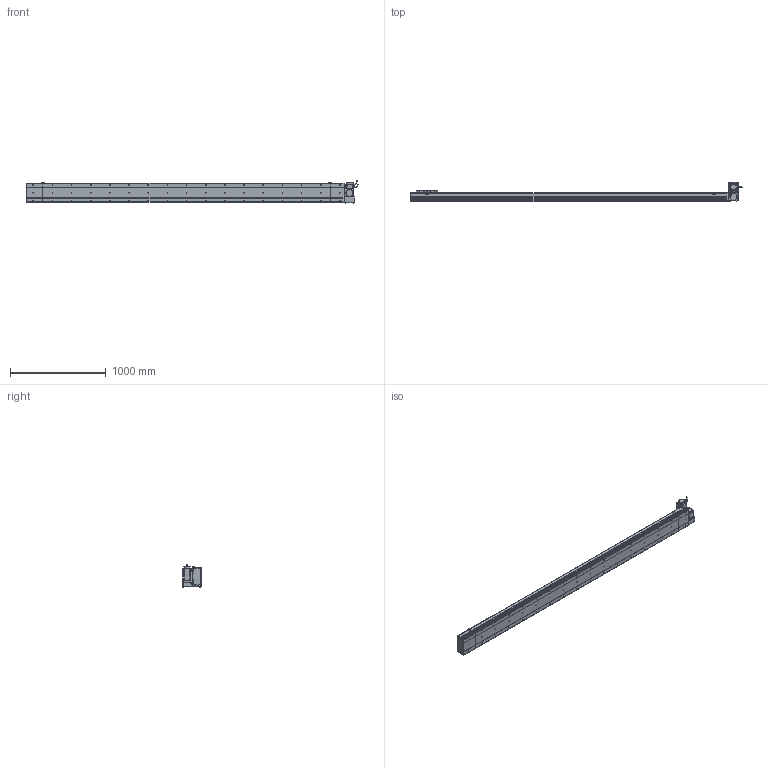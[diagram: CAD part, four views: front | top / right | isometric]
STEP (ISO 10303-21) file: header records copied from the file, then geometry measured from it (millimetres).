
FILE_DESCRIPTION (( 'STEP AP214' ), '1' );
FILE_NAME ('D20 CBH RT S3000.STEP', '2010-06-30T10:37:39', ( 'Conseil Régional Haute-Normandie' ), ( 'Conseil Régional Haute-Normandie' ), 'SwSTEP 2.0', 'SolidWorks 2010', '' );
FILE_SCHEMA (( 'AUTOMOTIVE_DESIGN' ));
Length unit declared in the file: millimetre
Products named in the file (31): Support Chariot D20_Default; Chariot D20_Default; Corp Tail D20_Default; D20 CBH RT S3000; vis M5 L15_Default; Couvercle RT_Default; Corp Tail D20 RT_Default; Head RT_Default; Support moteur RT_Default; Plaque De Serrage D20 RT_Default; Plaque de Bout Head D20 RT_Default; corps 90BLDC125A-640; avant 90BLDC125A-640; Moteur motionking 90BLDC125A-640; Conecteur_Default; Plaque De Serrage D20_Default; Conecteur2_Default; codeur 90BLDC125-640; Cache Support Moteur RT_Default; ecrou_Default; vis M5 L30_Default; Corp D20 S3000_Default; Rondelle Cache D20 RT_Default; vis M5 L47_Default; Couvercle S3000_Default; Corp S3000_Default; Glissiere_Default; Couvercle_Default; Plaque de Bout Tail D20_Default; Tail D20_Default
Assembly tree (68 placements, depth 4):
  D20 CBH RT S3000
    Chariot D20_Default
      vis M5 L15_Default  x8
      Glissiere_Default
      Support Chariot D20_Default
      Chariot D20_Default
    Tail D20_Default
      vis M5 L15_Default  x6
      Plaque de Bout Tail D20_Default
      Corp Tail D20_Default
      Plaque De Serrage D20_Default
      Couvercle_Default
    Corp D20 S3000_Default
      Corp S3000_Default
      Couvercle S3000_Default
    Head RT_Default
      vis M5 L47_Default  x4
      vis M5 L15_Default  x14
      ecrou_Default  x4
      Plaque De Serrage D20 RT_Default
      Couvercle RT_Default
      Moteur motionking 90BLDC125A-640
        Conecteur_Default
        Conecteur2_Default
        codeur 90BLDC125-640
        avant 90BLDC125A-640
        corps 90BLDC125A-640
      Cache Support Moteur RT_Default
      Rondelle Cache D20 RT_Default  x3
      vis M5 L30_Default  x4
      Plaque de Bout Head D20 RT_Default
      Corp Tail D20 RT_Default
      Support moteur RT_Default
Bounding box: 3464.45 x 206.5 x 229.7 mm (x, y, z)
Volume: 23242126.1 mm3; surface area: 4470179 mm2
Topology: 105 solids, 105 shells, 3862 faces, 9588 edges, 6226 vertices
Faces by surface type: plane 2143, bspline 806, cylinder 742, torus 95, cone 72, sphere 4
Entity records: 160622 total; most frequent: CARTESIAN_POINT 82508, ORIENTED_EDGE 15444, DIRECTION 11854, EDGE_CURVE 7722, VERTEX_POINT 5110, VECTOR 4966, LINE 4966, AXIS2_PLACEMENT_3D 3444
